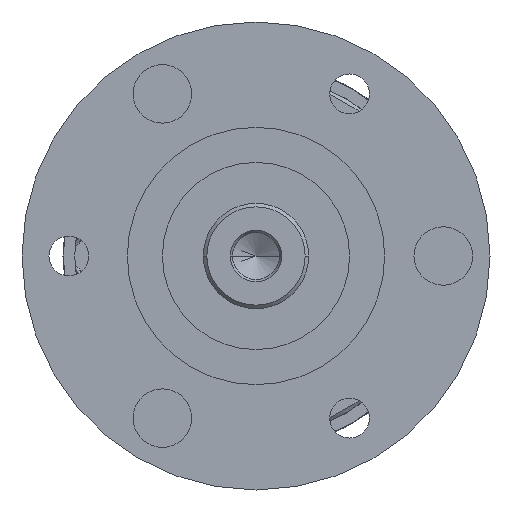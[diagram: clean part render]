
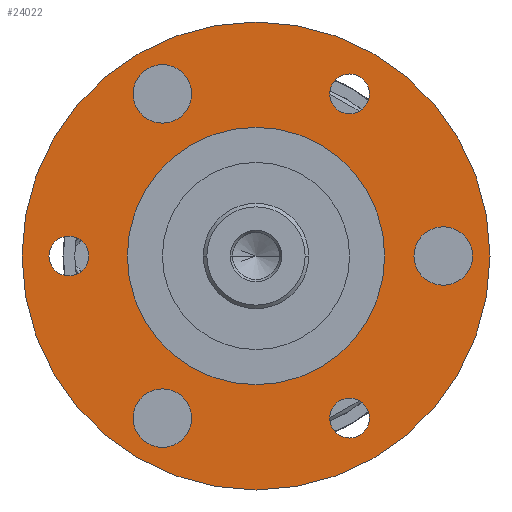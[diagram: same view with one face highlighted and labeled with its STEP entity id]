
A CAD part, left-side view. The second image highlights one B-rep face of the part: STEP entity #24022.
In plain terms, the highlighted planar face has unit normal (-1, 0, 0).
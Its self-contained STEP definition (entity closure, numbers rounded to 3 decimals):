
#23120=CARTESIAN_POINT('',(-6.4,0.,0.));
#23121=DIRECTION('',(-1.,0.,0.));
#23122=DIRECTION('',(0.,1.,0.));
#23123=AXIS2_PLACEMENT_3D('',#23120,#23121,#23122);
#23128=CARTESIAN_POINT('',(-6.4,0.,0.));
#23129=DIRECTION('',(1.,0.,0.));
#23130=DIRECTION('',(0.,1.,0.));
#23131=AXIS2_PLACEMENT_3D('',#23128,#23129,#23130);
#23136=CARTESIAN_POINT('',(-6.4,-16.,0.));
#23137=DIRECTION('',(1.,0.,0.));
#23138=DIRECTION('',(0.,-1.,0.));
#23139=AXIS2_PLACEMENT_3D('',#23136,#23137,#23138);
#23144=CARTESIAN_POINT('',(-6.4,-16.,0.));
#23145=DIRECTION('',(1.,0.,0.));
#23146=DIRECTION('',(0.,1.,0.));
#23147=AXIS2_PLACEMENT_3D('',#23144,#23145,#23146);
#23152=CARTESIAN_POINT('',(-6.4,8.,13.856));
#23153=DIRECTION('',(1.,0.,0.));
#23154=DIRECTION('',(0.,-1.,0.));
#23155=AXIS2_PLACEMENT_3D('',#23152,#23153,#23154);
#23160=CARTESIAN_POINT('',(-6.4,8.,13.856));
#23161=DIRECTION('',(1.,0.,0.));
#23162=DIRECTION('',(0.,1.,0.));
#23163=AXIS2_PLACEMENT_3D('',#23160,#23161,#23162);
#23168=CARTESIAN_POINT('',(-6.4,8.,-13.856));
#23169=DIRECTION('',(1.,0.,0.));
#23170=DIRECTION('',(0.,-1.,0.));
#23171=AXIS2_PLACEMENT_3D('',#23168,#23169,#23170);
#23176=CARTESIAN_POINT('',(-6.4,8.,-13.856));
#23177=DIRECTION('',(1.,0.,0.));
#23178=DIRECTION('',(0.,1.,0.));
#23179=AXIS2_PLACEMENT_3D('',#23176,#23177,#23178);
#23184=CARTESIAN_POINT('',(-6.4,16.,0.));
#23185=DIRECTION('',(1.,0.,0.));
#23186=DIRECTION('',(0.,1.,0.));
#23187=AXIS2_PLACEMENT_3D('',#23184,#23185,#23186);
#23192=CARTESIAN_POINT('',(-6.4,16.,0.));
#23193=DIRECTION('',(1.,0.,0.));
#23194=DIRECTION('',(0.,-1.,0.));
#23195=AXIS2_PLACEMENT_3D('',#23192,#23193,#23194);
#23200=CARTESIAN_POINT('',(-6.4,-8.,13.856));
#23201=DIRECTION('',(1.,0.,0.));
#23202=DIRECTION('',(0.,1.,0.));
#23203=AXIS2_PLACEMENT_3D('',#23200,#23201,#23202);
#23208=CARTESIAN_POINT('',(-6.4,-8.,13.856));
#23209=DIRECTION('',(1.,0.,0.));
#23210=DIRECTION('',(0.,-1.,0.));
#23211=AXIS2_PLACEMENT_3D('',#23208,#23209,#23210);
#23216=CARTESIAN_POINT('',(-6.4,-8.,-13.856));
#23217=DIRECTION('',(1.,0.,0.));
#23218=DIRECTION('',(0.,1.,0.));
#23219=AXIS2_PLACEMENT_3D('',#23216,#23217,#23218);
#23224=CARTESIAN_POINT('',(-6.4,-8.,-13.856));
#23225=DIRECTION('',(1.,0.,0.));
#23226=DIRECTION('',(0.,-1.,0.));
#23227=AXIS2_PLACEMENT_3D('',#23224,#23225,#23226);
#23232=CARTESIAN_POINT('',(-6.4,0.,0.));
#23233=DIRECTION('',(1.,0.,0.));
#23234=DIRECTION('',(0.,1.,0.));
#23235=AXIS2_PLACEMENT_3D('',#23232,#23233,#23234);
#23254=CARTESIAN_POINT('',(-6.4,0.,0.));
#23255=DIRECTION('',(-1.,0.,0.));
#23256=DIRECTION('',(0.,1.,0.));
#23257=AXIS2_PLACEMENT_3D('',#23254,#23255,#23256);
#23442=CARTESIAN_POINT('',(-6.4,11.,0.));
#23444=VERTEX_POINT('',#23442);
#23446=CARTESIAN_POINT('',(-6.4,-11.,0.));
#23448=VERTEX_POINT('',#23446);
#23450=CARTESIAN_POINT('',(-6.4,20.,0.));
#23451=CARTESIAN_POINT('',(-6.4,-20.,0.));
#23452=VERTEX_POINT('',#23450);
#23453=VERTEX_POINT('',#23451);
#23468=CARTESIAN_POINT('',(-6.4,-17.7,0.));
#23469=CARTESIAN_POINT('',(-6.4,-14.3,0.));
#23470=VERTEX_POINT('',#23468);
#23471=VERTEX_POINT('',#23469);
#23486=CARTESIAN_POINT('',(-6.4,6.3,13.856));
#23487=CARTESIAN_POINT('',(-6.4,9.7,13.856));
#23488=VERTEX_POINT('',#23486);
#23489=VERTEX_POINT('',#23487);
#23516=CARTESIAN_POINT('',(-6.4,6.3,-13.856));
#23517=CARTESIAN_POINT('',(-6.4,9.7,-13.856));
#23518=VERTEX_POINT('',#23516);
#23519=VERTEX_POINT('',#23517);
#23554=CARTESIAN_POINT('',(-6.4,18.5,0.));
#23555=CARTESIAN_POINT('',(-6.4,13.5,0.));
#23556=VERTEX_POINT('',#23554);
#23557=VERTEX_POINT('',#23555);
#23562=CARTESIAN_POINT('',(-6.4,-5.5,13.856));
#23563=VERTEX_POINT('',#23562);
#23564=CARTESIAN_POINT('',(-6.4,-10.5,13.856));
#23565=VERTEX_POINT('',#23564);
#23570=CARTESIAN_POINT('',(-6.4,-5.5,-13.856));
#23571=CARTESIAN_POINT('',(-6.4,-10.5,-13.856));
#23572=VERTEX_POINT('',#23570);
#23573=VERTEX_POINT('',#23571);
#23971=CARTESIAN_POINT('',(-6.4,0.,0.));
#23972=DIRECTION('',(1.,0.,0.));
#23973=DIRECTION('',(0.,-1.,0.));
#23974=AXIS2_PLACEMENT_3D('',#23971,#23972,#23973);
#23975=PLANE('',#23974);
#23976=ORIENTED_EDGE('',*,*,#23938,.F.);
#23977=ORIENTED_EDGE('',*,*,#23953,.T.);
#23978=EDGE_LOOP('',(#23976,#23977));
#23979=FACE_OUTER_BOUND('',#23978,.F.);
#23981=ORIENTED_EDGE('',*,*,#23980,.F.);
#23983=ORIENTED_EDGE('',*,*,#23982,.T.);
#23984=EDGE_LOOP('',(#23981,#23983));
#23985=FACE_BOUND('',#23984,.F.);
#23987=ORIENTED_EDGE('',*,*,#23986,.F.);
#23989=ORIENTED_EDGE('',*,*,#23988,.F.);
#23990=EDGE_LOOP('',(#23987,#23989));
#23991=FACE_BOUND('',#23990,.F.);
#23993=ORIENTED_EDGE('',*,*,#23992,.F.);
#23995=ORIENTED_EDGE('',*,*,#23994,.F.);
#23996=EDGE_LOOP('',(#23993,#23995));
#23997=FACE_BOUND('',#23996,.F.);
#23999=ORIENTED_EDGE('',*,*,#23998,.F.);
#24001=ORIENTED_EDGE('',*,*,#24000,.F.);
#24002=EDGE_LOOP('',(#23999,#24001));
#24003=FACE_BOUND('',#24002,.F.);
#24005=ORIENTED_EDGE('',*,*,#24004,.F.);
#24007=ORIENTED_EDGE('',*,*,#24006,.F.);
#24008=EDGE_LOOP('',(#24005,#24007));
#24009=FACE_BOUND('',#24008,.F.);
#24011=ORIENTED_EDGE('',*,*,#24010,.F.);
#24013=ORIENTED_EDGE('',*,*,#24012,.F.);
#24014=EDGE_LOOP('',(#24011,#24013));
#24015=FACE_BOUND('',#24014,.F.);
#24017=ORIENTED_EDGE('',*,*,#24016,.F.);
#24019=ORIENTED_EDGE('',*,*,#24018,.F.);
#24020=EDGE_LOOP('',(#24017,#24019));
#24021=FACE_BOUND('',#24020,.F.);
#23124=CIRCLE('',#23123,20.);
#23132=CIRCLE('',#23131,20.);
#23140=CIRCLE('',#23139,1.7);
#23148=CIRCLE('',#23147,1.7);
#23156=CIRCLE('',#23155,1.7);
#23164=CIRCLE('',#23163,1.7);
#23172=CIRCLE('',#23171,1.7);
#23180=CIRCLE('',#23179,1.7);
#23188=CIRCLE('',#23187,2.5);
#23196=CIRCLE('',#23195,2.5);
#23204=CIRCLE('',#23203,2.5);
#23212=CIRCLE('',#23211,2.5);
#23220=CIRCLE('',#23219,2.5);
#23228=CIRCLE('',#23227,2.5);
#23236=CIRCLE('',#23235,11.);
#23258=CIRCLE('',#23257,11.);
#23938=EDGE_CURVE('',#23452,#23453,#23124,.T.);
#23953=EDGE_CURVE('',#23452,#23453,#23132,.T.);
#23980=EDGE_CURVE('',#23444,#23448,#23236,.T.);
#23982=EDGE_CURVE('',#23444,#23448,#23258,.T.);
#23986=EDGE_CURVE('',#23470,#23471,#23140,.T.);
#23988=EDGE_CURVE('',#23471,#23470,#23148,.T.);
#23992=EDGE_CURVE('',#23488,#23489,#23156,.T.);
#23994=EDGE_CURVE('',#23489,#23488,#23164,.T.);
#23998=EDGE_CURVE('',#23518,#23519,#23172,.T.);
#24000=EDGE_CURVE('',#23519,#23518,#23180,.T.);
#24004=EDGE_CURVE('',#23556,#23557,#23188,.T.);
#24006=EDGE_CURVE('',#23557,#23556,#23196,.T.);
#24010=EDGE_CURVE('',#23563,#23565,#23204,.T.);
#24012=EDGE_CURVE('',#23565,#23563,#23212,.T.);
#24016=EDGE_CURVE('',#23572,#23573,#23220,.T.);
#24018=EDGE_CURVE('',#23573,#23572,#23228,.T.);
#24022=ADVANCED_FACE('',(#23979,#23985,#23991,#23997,#24003,#24009,#24015,
#24021),#23975,.F.);
